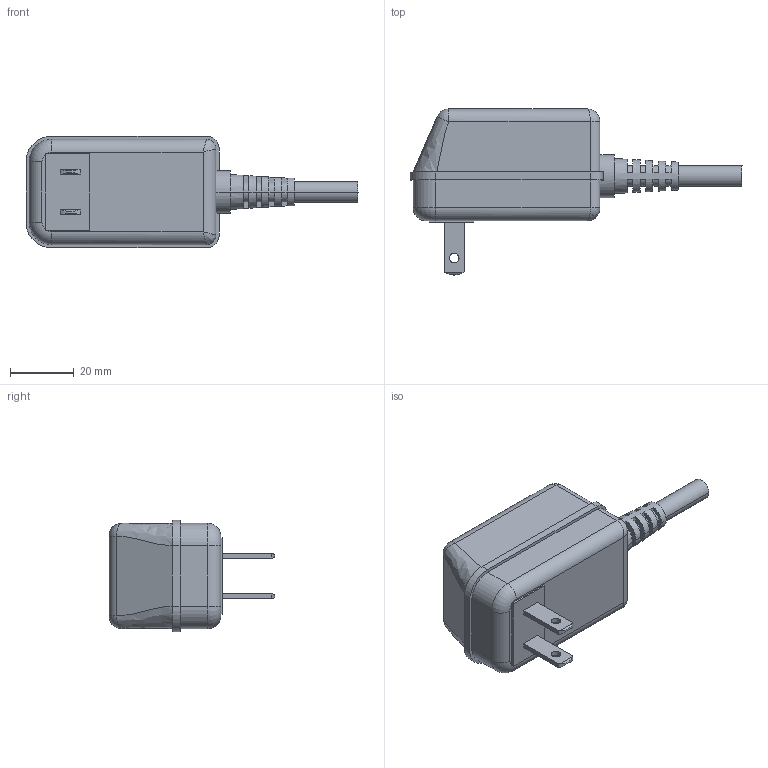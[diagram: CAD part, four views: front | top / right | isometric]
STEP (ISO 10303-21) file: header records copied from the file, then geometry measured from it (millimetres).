
FILE_DESCRIPTION (( 'STEP AP214' ), '1' );
FILE_NAME ('DMR_AC傾僟僾僞.STEP', '2024-06-18T01:38:28', ( '' ), ( '' ), 'SwSTEP 2.0', 'SolidWorks 2023', '' );
FILE_SCHEMA (( 'AUTOMOTIVE_DESIGN' ));
Length unit declared in the file: millimetre
Products named in the file (1): DMR_ACアダプタ
Bounding box: 104 x 52 x 35 mm (x, y, z)
Volume: 66498.9 mm3; surface area: 11321.3 mm2
Topology: 1 solids, 1 shells, 124 faces, 334 edges, 210 vertices
Faces by surface type: plane 72, cylinder 40, bspline 6, cone 2, sphere 2, torus 2
Entity records: 4264 total; most frequent: CARTESIAN_POINT 1159, ORIENTED_EDGE 656, DIRECTION 652, EDGE_CURVE 328, AXIS2_PLACEMENT_3D 241, VERTEX_POINT 210, LINE 170, VECTOR 170
